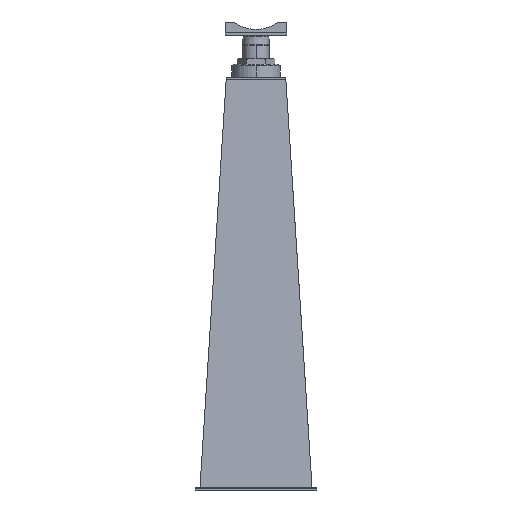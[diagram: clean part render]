
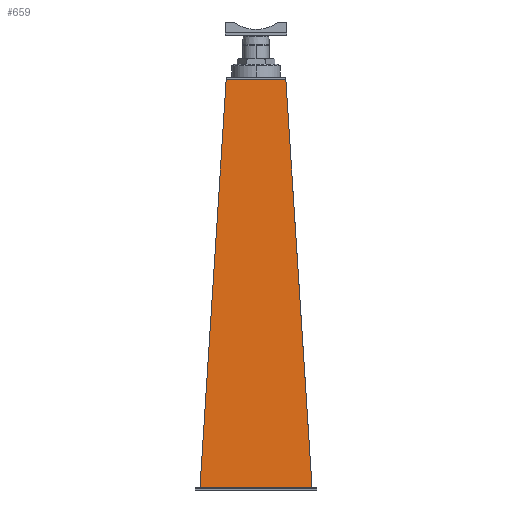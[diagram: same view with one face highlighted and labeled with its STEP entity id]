
A CAD part, left-side view. The second image highlights one B-rep face of the part: STEP entity #659.
In plain terms, the highlighted planar face has unit normal (-0.998, 0, 0.064).
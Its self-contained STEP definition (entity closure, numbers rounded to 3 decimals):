
#659=ADVANCED_FACE('',(#1344),#1345,.F.);
#1344=FACE_OUTER_BOUND('',#2096,.T.);
#1345=PLANE('',#2097);
#2096=EDGE_LOOP('',(#4090,#4091,#4092,#4093));
#2097=AXIS2_PLACEMENT_3D('',#4094,#4095,#4096);
#4090=ORIENTED_EDGE('',*,*,#5071,.T.);
#4091=ORIENTED_EDGE('',*,*,#4829,.F.);
#4092=ORIENTED_EDGE('',*,*,#5091,.F.);
#4093=ORIENTED_EDGE('',*,*,#5087,.T.);
#4094=CARTESIAN_POINT('',(390.189,490.925,368.118));
#4095=DIRECTION('',(0.998,0.,-0.064));
#4096=DIRECTION('',(0.,-1.0,0.));
#4829=EDGE_CURVE('',#5828,#5823,#5830,.T.);
#5071=EDGE_CURVE('',#6148,#5823,#6149,.T.);
#5087=EDGE_CURVE('',#6170,#6148,#6171,.T.);
#5091=EDGE_CURVE('',#6170,#5828,#6176,.T.);
#5823=VERTEX_POINT('',#7432);
#5828=VERTEX_POINT('',#7439);
#5830=LINE('',#7442,#7443);
#6148=VERTEX_POINT('',#8020);
#6149=LINE('',#8021,#8022);
#6170=VERTEX_POINT('',#8053);
#6171=LINE('',#8054,#8055);
#6176=LINE('',#8062,#8063);
#7432=CARTESIAN_POINT('',(330.37,428.112,-561.075));
#7439=CARTESIAN_POINT('',(390.176,487.919,367.925));
#7442=CARTESIAN_POINT('',(390.468,488.211,372.459));
#7443=VECTOR('',#8764,1.);
#8020=CARTESIAN_POINT('',(330.37,683.738,-561.075));
#8021=CARTESIAN_POINT('',(330.37,523.425,-561.075));
#8022=VECTOR('',#8936,1.0);
#8053=CARTESIAN_POINT('',(390.176,623.931,367.925));
#8054=CARTESIAN_POINT('',(390.468,623.64,372.459));
#8055=VECTOR('',#8947,1.);
#8062=CARTESIAN_POINT('',(390.176,523.425,367.925));
#8063=VECTOR('',#8950,1.0);
#8764=DIRECTION('',(-0.064,-0.064,-0.996));
#8936=DIRECTION('',(0.,-1.0,0.));
#8947=DIRECTION('',(-0.064,0.064,-0.996));
#8950=DIRECTION('',(0.,-1.0,0.));
